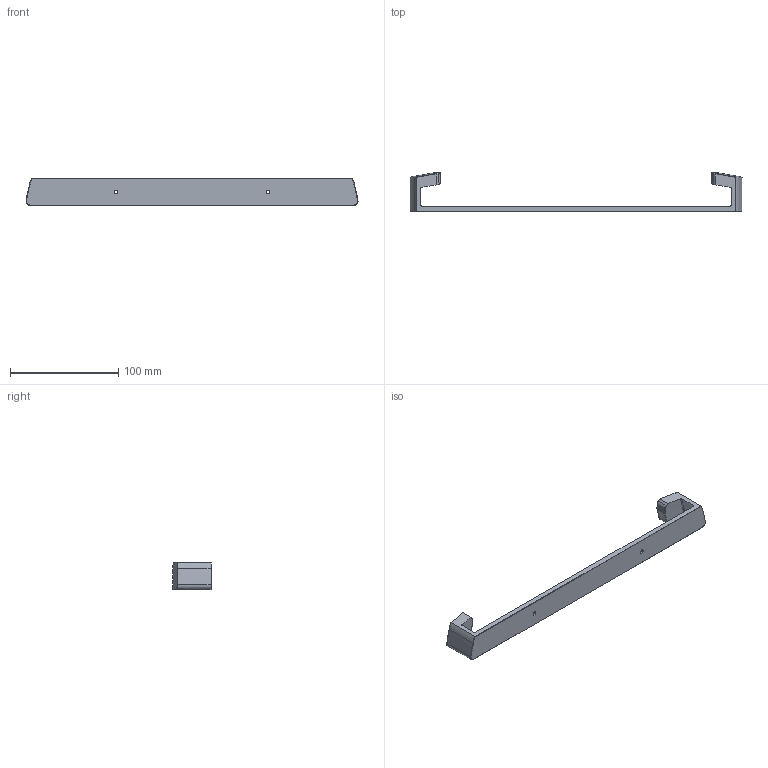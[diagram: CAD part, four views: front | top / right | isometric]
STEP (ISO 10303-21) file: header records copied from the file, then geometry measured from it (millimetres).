
FILE_DESCRIPTION (( 'STEP AP214' ), '1' );
FILE_NAME ('Topfdeckelhalterung 30cm.STEP', '2025-06-14T16:14:27', ( '' ), ( '' ), 'SwSTEP 2.0', 'SolidWorks 2012', '' );
FILE_SCHEMA (( 'AUTOMOTIVE_DESIGN' ));
Length unit declared in the file: millimetre
Products named in the file (1): Topfdeckelhalterung 30cm
Bounding box: 306.16 x 35.93 x 25 mm (x, y, z)
Volume: 51229.1 mm3; surface area: 23320.3 mm2
Topology: 1 solids, 1 shells, 115 faces, 291 edges, 176 vertices
Faces by surface type: bspline 50, cylinder 23, plane 22, cone 10, torus 10
Entity records: 5627 total; most frequent: CARTESIAN_POINT 3269, ORIENTED_EDGE 578, DIRECTION 355, EDGE_CURVE 289, VERTEX_POINT 176, AXIS2_PLACEMENT_3D 144, B_SPLINE_CURVE_WITH_KNOTS 138, EDGE_LOOP 119
